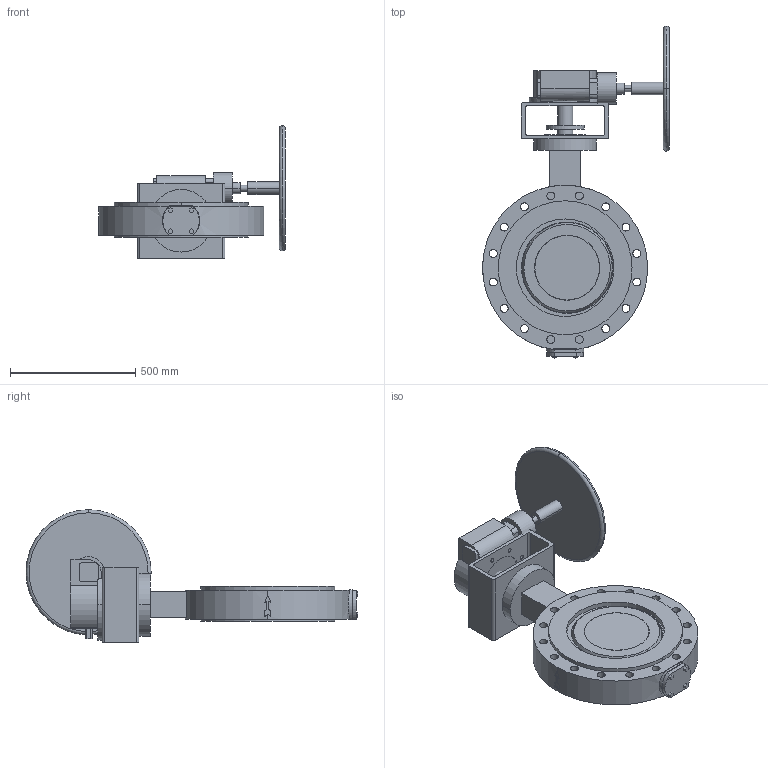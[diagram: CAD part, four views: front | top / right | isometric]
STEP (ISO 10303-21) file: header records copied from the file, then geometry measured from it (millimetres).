
FILE_DESCRIPTION( ( '' ), '1' );
FILE_NAME( 'F:/DE-SHS/TB/OR/04-Sonstiges/daten/Excel/mneugeba/018_ZETRIX-PN40_Getriebe-Rotork/c000006458.stp', '2016-09-19T06:43:45', ( '' ), ( '' ), ' ', ' ', ' ' );
FILE_SCHEMA( ( 'CONFIG_CONTROL_DESIGN' ) );
Length unit declared in the file: millimetre
Products named in the file (2): 1; 2
Bounding box: 747 x 1326.5 x 530 mm (x, y, z)
Volume: 57111311.5 mm3; surface area: 2859987.5 mm2
Topology: 2 solids, 2 shells, 309 faces, 801 edges, 534 vertices
Faces by surface type: cylinder 152, plane 145, cone 4, sphere 4, torus 4
Entity records: 10621 total; most frequent: CARTESIAN_POINT 2569, DIRECTION 1735, ORIENTED_EDGE 1602, EDGE_CURVE 801, AXIS2_PLACEMENT_3D 660, VERTEX_POINT 534, LINE 415, VECTOR 415
